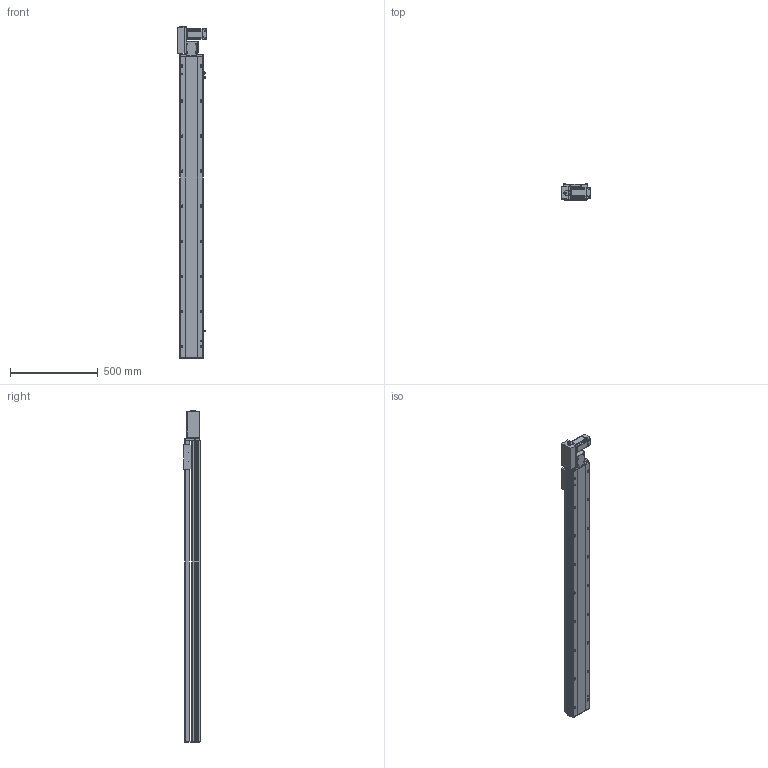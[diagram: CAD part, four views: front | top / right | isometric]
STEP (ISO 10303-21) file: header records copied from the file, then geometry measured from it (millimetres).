
FILE_DESCRIPTION (( 'STEP AP214' ), '1' );
FILE_NAME ('TPT14M-L40-1450-L-T40-C4.STEP', '2023-03-07T00:26:22', ( '' ), ( '' ), 'SwSTEP 2.0', 'SolidWorks 2020', '' );
FILE_SCHEMA (( 'AUTOMOTIVE_DESIGN' ));
Length unit declared in the file: millimetre
Products named in the file (9): 葩璃 pm-t65-672^TPT14M-L40-L-T40-C4; 葩璃 TPT14-L-002 奻裔MZ-135-05^TPT14M-L40-L-T40-C4; 葩璃 侂狟400W^TPT14M-L40-L-T40-C4; 葩璃 TPT14-L-005 賑釱MZ-135-07^TPT14M-L40-L-T40-C4; 葩璃 TPT14-L-009 萇儂啣^TPT14M-L40-L-T40-C4_400W; 葩璃 TPT14-L-007 々湍釱MZ-169x88^TPT14M-L40-L-T40-C4_YTB14M; 葩璃 TPT14-L-001 菁釱MZ-135-01^TPT14M-L40-L-T40-C4; TPT14M-L40-1450-L-T40-C4; hexagon head bolts-full thread gb_GB_FASTENER_BOLT_STBAB A M5X16-N
Assembly tree (10 placements, depth 2):
  TPT14M-L40-1450-L-T40-C4
    葩璃 TPT14-L-001 菁釱MZ-135-01^TPT14M-L40-L-T40-C4
    葩璃 TPT14-L-002 奻裔MZ-135-05^TPT14M-L40-L-T40-C4
    葩璃 TPT14-L-005 賑釱MZ-135-07^TPT14M-L40-L-T40-C4
    葩璃 TPT14-L-007 々湍釱MZ-169x88^TPT14M-L40-L-T40-C4_YTB14M
    葩璃 TPT14-L-009 萇儂啣^TPT14M-L40-L-T40-C4_400W
    葩璃 pm-t65-672^TPT14M-L40-L-T40-C4  x3
    葩璃 侂狟400W^TPT14M-L40-L-T40-C4
    hexagon head bolts-full thread gb_GB_FASTENER_BOLT_STBAB A M5X16-N
Bounding box: 170.5 x 93 x 1895.15 mm (x, y, z)
Volume: 11251054.7 mm3; surface area: 1648941 mm2
Topology: 18 solids, 18 shells, 1476 faces, 3861 edges, 2462 vertices
Faces by surface type: plane 772, cylinder 528, cone 150, bspline 26
Entity records: 40260 total; most frequent: CARTESIAN_POINT 7418, DIRECTION 6664, ORIENTED_EDGE 6266, EDGE_CURVE 3133, AXIS2_PLACEMENT_3D 2364, VERTEX_POINT 2038, LINE 1936, VECTOR 1936
